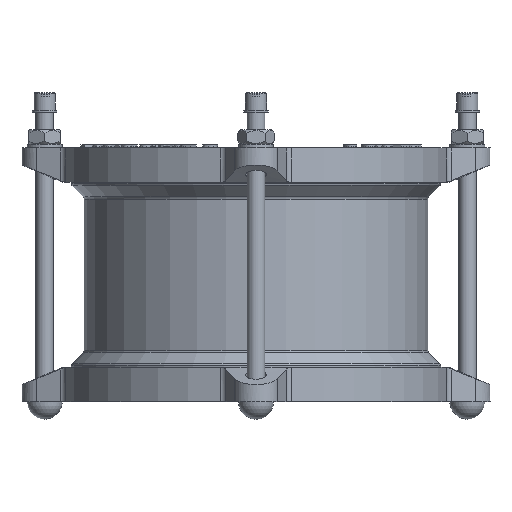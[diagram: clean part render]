
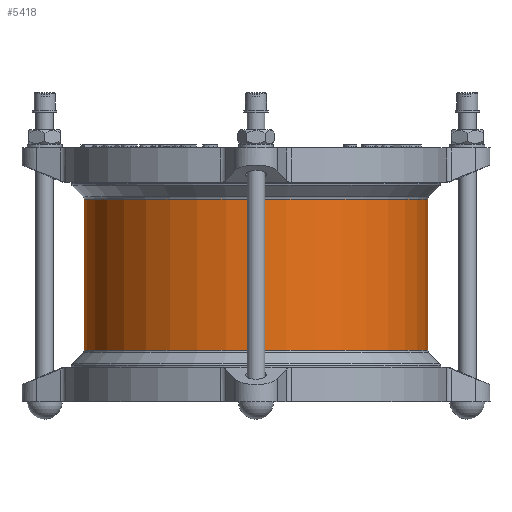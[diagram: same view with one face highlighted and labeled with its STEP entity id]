
A CAD part, front view. The second image highlights one B-rep face of the part: STEP entity #5418.
In plain terms, the highlighted cylindrical face has radius 117.5 mm (diameter 235 mm), a full revolution.
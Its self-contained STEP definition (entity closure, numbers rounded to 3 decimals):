
#5418=ADVANCED_FACE('',(#10009,#10011),#10013,.T.);
#10009=FACE_OUTER_BOUND('',#10010,.T.);
#10010=EDGE_LOOP('',(#14997));
#10011=FACE_OUTER_BOUND('',#10012,.T.);
#10012=EDGE_LOOP('',(#14998));
#10013=CYLINDRICAL_SURFACE('',#10014,117.5);
#10014=AXIS2_PLACEMENT_3D('',#10015,#10016,#10017);
#10015=CARTESIAN_POINT('',(0.,0.,52.714));
#10016=DIRECTION('',(0.,0.,-1.));
#10017=DIRECTION('',(0.,1.,0.));
#14997=ORIENTED_EDGE('',*,*,#17105,.T.);
#14998=ORIENTED_EDGE('',*,*,#17106,.F.);
#17105=EDGE_CURVE('',#19967,#19967,#19968,.T.);
#17106=EDGE_CURVE('',#19969,#19969,#19970,.T.);
#19967=VERTEX_POINT('',#29386);
#19968=CIRCLE('',#29387,117.5);
#19969=VERTEX_POINT('',#29391);
#19970=CIRCLE('',#29392,117.5);
#29386=CARTESIAN_POINT('',(0.,117.5,51.679));
#29387=AXIS2_PLACEMENT_3D('',#29388,#29389,#29390);
#29388=CARTESIAN_POINT('',(0.,0.,51.679));
#29389=DIRECTION('',(0.,0.,-1.));
#29390=DIRECTION('',(0.,1.,0.));
#29391=CARTESIAN_POINT('',(0.,117.5,-51.679));
#29392=AXIS2_PLACEMENT_3D('',#29393,#29394,#29395);
#29393=CARTESIAN_POINT('',(0.,0.,-51.679));
#29394=DIRECTION('',(0.,0.,-1.));
#29395=DIRECTION('',(0.,1.,0.));
